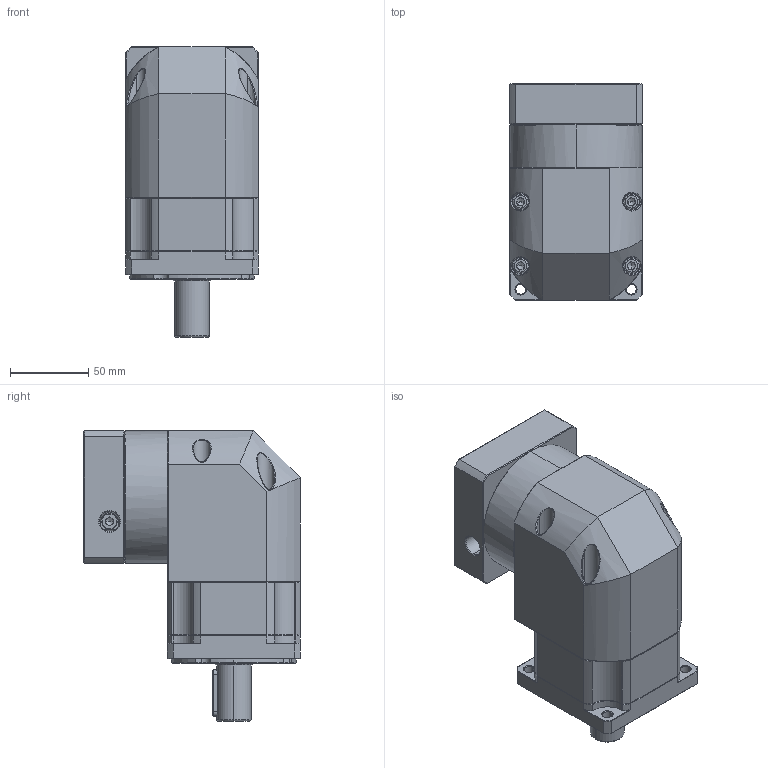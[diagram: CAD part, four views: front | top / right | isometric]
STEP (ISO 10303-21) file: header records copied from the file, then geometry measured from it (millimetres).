
FILE_DESCRIPTION (( 'STEP AP214' ), '1' );
FILE_NAME ('ZBR090-D22-L1-P2-19-80-100-M6.step', '2023-08-19T02:05:50', ( '' ), ( '' ), 'SwSTEP 2.0', 'SolidWorks 2016', '' );
FILE_SCHEMA (( 'AUTOMOTIVE_DESIGN' ));
Length unit declared in the file: millimetre
Products named in the file (1): ZBR090-D22-L1-P2-19-80-100-M6
Bounding box: 85 x 138.6 x 186 mm (x, y, z)
Volume: 1190829.4 mm3; surface area: 130548.2 mm2
Topology: 5 solids, 5 shells, 2407 faces, 6285 edges, 3972 vertices
Faces by surface type: plane 1155, cylinder 449, bspline 421, cone 356, torus 26
Entity records: 129602 total; most frequent: CARTESIAN_POINT 47659, ORIENTED_EDGE 12494, DIRECTION 9948, EDGE_CURVE 6247, VERTEX_POINT 3972, LINE 3960, VECTOR 3960, AXIS2_PLACEMENT_3D 2994
